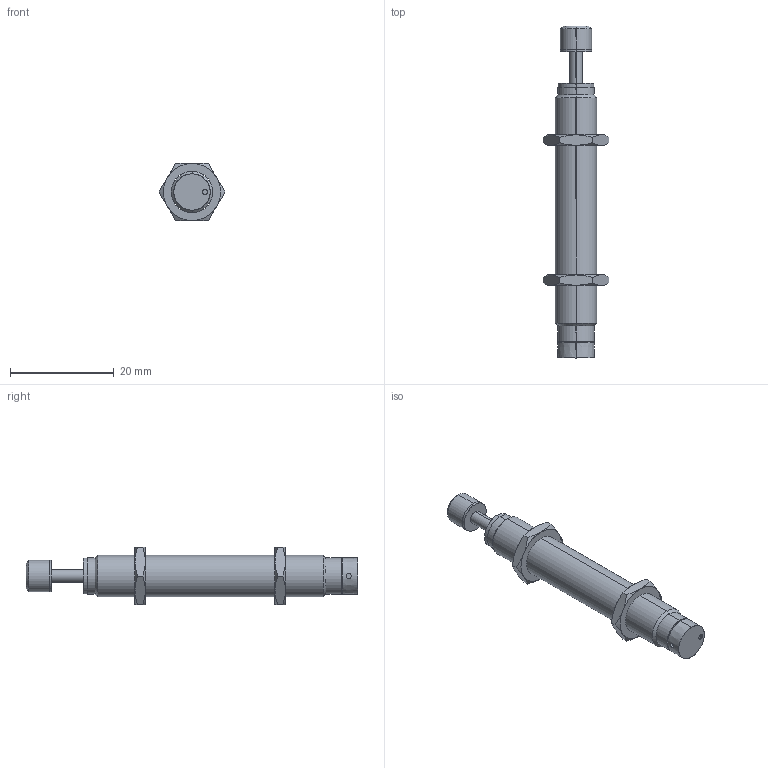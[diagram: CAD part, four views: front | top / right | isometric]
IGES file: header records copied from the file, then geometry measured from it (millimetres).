
Start section: SolidWorks IGES file using analytic representation for surfaces
Bounding box: 12.7 x 64 x 11 mm (x, y, z)
Surface area: 2256.2 mm2 (no closed solid volume)
Topology: 0 solids, 0 shells, 82 faces, 1440 edges, 1440 vertices
Faces by surface type: revolution 54, bspline 28
